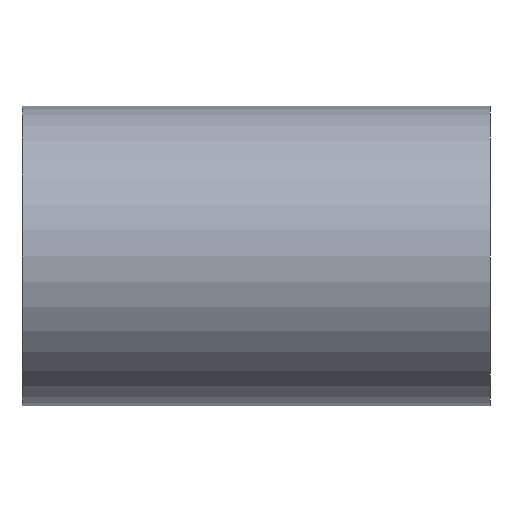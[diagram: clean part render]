
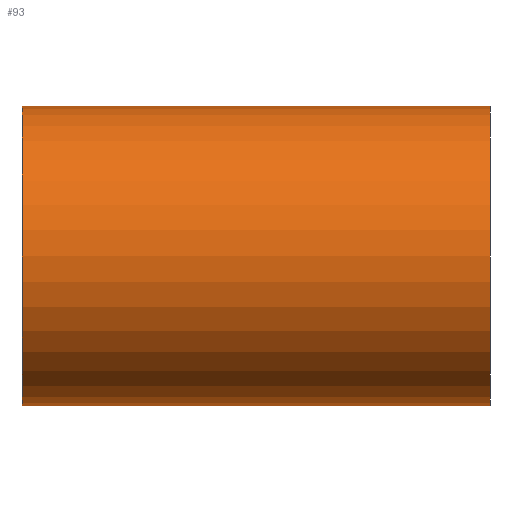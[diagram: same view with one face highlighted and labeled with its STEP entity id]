
A CAD part, left-side view. The second image highlights one B-rep face of the part: STEP entity #93.
In plain terms, the highlighted free-form (B-spline) face has degree [3, 1] with [4, 2] control points.
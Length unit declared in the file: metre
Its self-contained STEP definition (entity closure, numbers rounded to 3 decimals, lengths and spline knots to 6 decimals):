
#14=(
BOUNDED_CURVE()
B_SPLINE_CURVE(1,(#147,#148),.UNSPECIFIED.,.F.,.F.)
B_SPLINE_CURVE_WITH_KNOTS((2,2),(0.,1.),.PIECEWISE_BEZIER_KNOTS.)
CURVE()
GEOMETRIC_REPRESENTATION_ITEM()
RATIONAL_B_SPLINE_CURVE((1.,1.))
REPRESENTATION_ITEM('')
);
#15=(
BOUNDED_CURVE()
B_SPLINE_CURVE(1,(#152,#153),.UNSPECIFIED.,.F.,.F.)
B_SPLINE_CURVE_WITH_KNOTS((2,2),(0.,1.),.PIECEWISE_BEZIER_KNOTS.)
CURVE()
GEOMETRIC_REPRESENTATION_ITEM()
RATIONAL_B_SPLINE_CURVE((1.,1.))
REPRESENTATION_ITEM('')
);
#30=ORIENTED_EDGE('',*,*,#43,.F.);
#31=ORIENTED_EDGE('',*,*,#52,.F.);
#32=ORIENTED_EDGE('',*,*,#45,.T.);
#33=ORIENTED_EDGE('',*,*,#53,.T.);
#43=EDGE_CURVE('',#54,#56,#14,.T.);
#45=EDGE_CURVE('',#55,#57,#15,.T.);
#52=EDGE_CURVE('',#55,#54,#68,.T.);
#53=EDGE_CURVE('',#57,#56,#69,.T.);
#54=VERTEX_POINT('',#145);
#55=VERTEX_POINT('',#146);
#56=VERTEX_POINT('',#149);
#57=VERTEX_POINT('',#151);
#68=CIRCLE('',#115,0.008);
#69=CIRCLE('',#116,0.008);
#73=EDGE_LOOP('',(#30,#31,#32,#33));
#81=FACE_BOUND('',#73,.T.);
#89=(
BOUNDED_SURFACE()
B_SPLINE_SURFACE(3,1,((#182,#183),(#184,#185),(#186,#187),(#188,#189)),
 .CYLINDRICAL_SURF.,.F.,.F.,.F.)
B_SPLINE_SURFACE_WITH_KNOTS((4,4),(2,2),(0.5,1.),(0.045455,0.954545),
 .PIECEWISE_BEZIER_KNOTS.)
GEOMETRIC_REPRESENTATION_ITEM()
RATIONAL_B_SPLINE_SURFACE(((1.,1.),(0.333,0.333),
(0.333,0.333),(1.,1.)))
REPRESENTATION_ITEM('')
SURFACE()
);
#93=ADVANCED_FACE('',(#81),#89,.T.);
#115=AXIS2_PLACEMENT_3D('',#190,#131,#132);
#116=AXIS2_PLACEMENT_3D('',#191,#133,#134);
#131=DIRECTION('',(0.,-1.,0.));
#132=DIRECTION('',(0.,0.,-1.));
#133=DIRECTION('',(0.,-1.,0.));
#134=DIRECTION('',(0.,0.,-1.));
#145=CARTESIAN_POINT('',(-0.052059,-0.025,0.087175));
#146=CARTESIAN_POINT('',(-0.052059,-0.025,0.103175));
#147=CARTESIAN_POINT('',(-0.052059,-0.02625,0.087175));
#148=CARTESIAN_POINT('',(-0.052059,0.00125,0.087175));
#149=CARTESIAN_POINT('',(-0.052059,0.,0.087175));
#151=CARTESIAN_POINT('',(-0.052059,0.,0.103175));
#152=CARTESIAN_POINT('',(-0.052059,-0.02625,0.103175));
#153=CARTESIAN_POINT('',(-0.052059,0.00125,0.103175));
#182=CARTESIAN_POINT('',(-0.052059,-0.025,0.087175));
#183=CARTESIAN_POINT('',(-0.052059,0.,0.087175));
#184=CARTESIAN_POINT('',(-0.068059,-0.025,0.087175));
#185=CARTESIAN_POINT('',(-0.068059,0.,0.087175));
#186=CARTESIAN_POINT('',(-0.068059,-0.025,0.103175));
#187=CARTESIAN_POINT('',(-0.068059,0.,0.103175));
#188=CARTESIAN_POINT('',(-0.052059,-0.025,0.103175));
#189=CARTESIAN_POINT('',(-0.052059,0.,0.103175));
#190=CARTESIAN_POINT('',(-0.052059,-0.025,0.095175));
#191=CARTESIAN_POINT('',(-0.052059,0.,0.095175));
